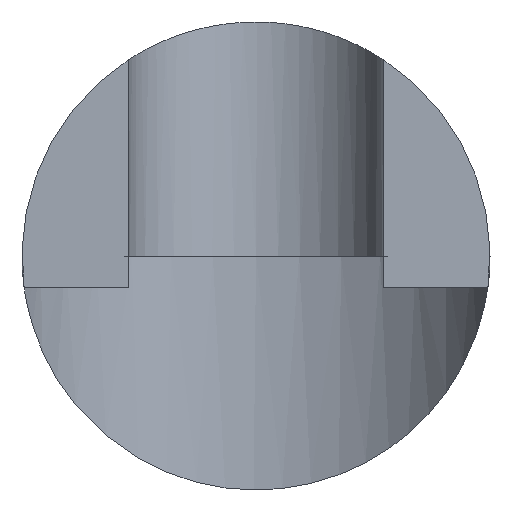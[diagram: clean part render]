
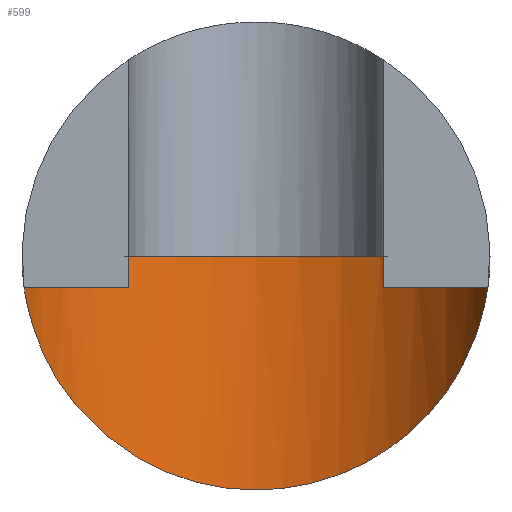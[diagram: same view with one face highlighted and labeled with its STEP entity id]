
A CAD part, front view. The second image highlights one B-rep face of the part: STEP entity #599.
In plain terms, the highlighted cylindrical face has radius 8 mm (diameter 16 mm), a partial arc.
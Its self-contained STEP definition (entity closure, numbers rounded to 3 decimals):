
#135=CARTESIAN_POINT('',(-7.5,-20.216,0.));
#136=CARTESIAN_POINT('',(-7.5,-20.216,-0.198));
#137=CARTESIAN_POINT('',(-7.485,-20.174,
-0.582));
#138=CARTESIAN_POINT('',(-7.42,-20.008,
-1.132));
#139=CARTESIAN_POINT('',(-7.327,-19.784,
-1.628));
#140=CARTESIAN_POINT('',(-7.208,-19.525,
-2.09));
#141=CARTESIAN_POINT('',(-7.07,-19.252,
-2.515));
#142=CARTESIAN_POINT('',(-6.914,-18.972,
-2.916));
#143=CARTESIAN_POINT('',(-6.736,-18.68,
-3.307));
#144=CARTESIAN_POINT('',(-6.536,-18.383,
-3.686));
#145=CARTESIAN_POINT('',(-6.324,-18.096,
-4.038));
#146=CARTESIAN_POINT('',(-6.088,-17.804,
-4.388));
#147=CARTESIAN_POINT('',(-5.798,-17.482,
-4.766));
#148=CARTESIAN_POINT('',(-5.445,-17.13,
-5.169));
#149=CARTESIAN_POINT('',(-5.012,-16.755,
-5.592));
#150=CARTESIAN_POINT('',(-4.487,-16.364,
-6.025));
#151=CARTESIAN_POINT('',(-3.842,-15.968,
-6.459));
#152=CARTESIAN_POINT('',(-3.074,-15.595,
-6.862));
#153=CARTESIAN_POINT('',(-2.168,-15.279,
-7.202));
#154=CARTESIAN_POINT('',(-1.228,-15.076,
-7.419));
#155=CARTESIAN_POINT('',(-0.289,-14.987,
-7.514));
#156=CARTESIAN_POINT('',(0.641,-15.007,
-7.492));
#157=CARTESIAN_POINT('',(1.583,-15.139,-7.352));
#158=CARTESIAN_POINT('',(2.516,-15.386,-7.088));
#159=CARTESIAN_POINT('',(3.404,-15.74,-6.705));
#160=CARTESIAN_POINT('',(4.19,-16.167,-6.241));
#161=CARTESIAN_POINT('',(4.842,-16.618,-5.745));
#162=CARTESIAN_POINT('',(5.375,-17.063,-5.246));
#163=CARTESIAN_POINT('',(5.805,-17.486,-4.761));
#164=CARTESIAN_POINT('',(6.146,-17.872,-4.309));
#165=CARTESIAN_POINT('',(6.417,-18.217,-3.892));
#166=CARTESIAN_POINT('',(6.664,-18.566,-3.455));
#167=CARTESIAN_POINT('',(6.883,-18.916,-2.994));
#168=CARTESIAN_POINT('',(7.062,-19.236,-2.541));
#169=CARTESIAN_POINT('',(7.209,-19.526,-2.088));
#170=CARTESIAN_POINT('',(7.33,-19.792,-1.612));
#171=CARTESIAN_POINT('',(7.425,-20.019,-1.104));
#172=CARTESIAN_POINT('',(7.486,-20.178,
-0.56));
#173=CARTESIAN_POINT('',(7.5,-20.216,-0.189));
#174=CARTESIAN_POINT('',(7.5,-20.216,0.));
#230=CARTESIAN_POINT('',(0.,-23.,0.));
#231=DIRECTION('',(0.,0.,-1.));
#232=DIRECTION('',(-0.938,0.348,0.));
#233=AXIS2_PLACEMENT_3D('',#230,#231,#232);
#426=CARTESIAN_POINT('',(7.5,-20.216,0.));
#428=VERTEX_POINT('',#426);
#430=CARTESIAN_POINT('',(-7.5,-20.216,0.));
#432=VERTEX_POINT('',#430);
#589=CARTESIAN_POINT('',(0.,-23.,0.));
#590=DIRECTION('',(0.,0.,-1.));
#591=DIRECTION('',(1.,0.,0.));
#592=AXIS2_PLACEMENT_3D('',#589,#590,#591);
#593=CYLINDRICAL_SURFACE('',#592,8.);
#594=ORIENTED_EDGE('',*,*,#581,.F.);
#596=ORIENTED_EDGE('',*,*,#595,.T.);
#597=EDGE_LOOP('',(#594,#596));
#598=FACE_OUTER_BOUND('',#597,.F.);
#599=ADVANCED_FACE('',(#598),#593,.F.);
#175=B_SPLINE_CURVE_WITH_KNOTS('',3,(#135,#136,#137,#138,#139,#140,#141,#142,
#143,#144,#145,#146,#147,#148,#149,#150,#151,#152,#153,#154,#155,#156,#157,#158,
#159,#160,#161,#162,#163,#164,#165,#166,#167,#168,#169,#170,#171,#172,#173,
#174),.UNSPECIFIED.,.F.,.F.,(4,1,1,1,1,1,1,1,1,1,1,1,1,1,1,1,1,1,1,1,1,1,1,1,1,
1,1,1,1,1,1,1,1,1,1,1,1,4),(0.,0.027,0.054,
0.081,0.108,0.135,0.162,
0.189,0.216,0.243,0.27,
0.297,0.324,0.351,0.378,
0.405,0.432,0.459,0.486,
0.514,0.541,0.568,0.595,
0.622,0.649,0.676,0.703,
0.73,0.757,0.784,0.811,
0.838,0.865,0.892,0.919,
0.946,0.973,1.),.UNSPECIFIED.);
#234=CIRCLE('',#233,8.);
#581=EDGE_CURVE('',#432,#428,#175,.T.);
#595=EDGE_CURVE('',#432,#428,#234,.T.);
